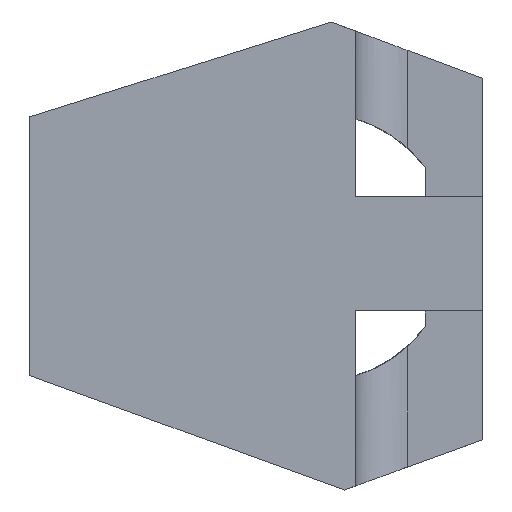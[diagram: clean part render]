
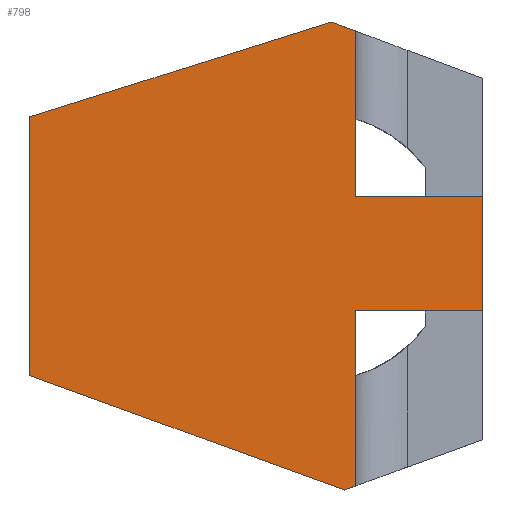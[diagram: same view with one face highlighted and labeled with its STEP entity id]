
A CAD part, left-side view. The second image highlights one B-rep face of the part: STEP entity #798.
In plain terms, the highlighted planar face has unit normal (-1, 0, 0).
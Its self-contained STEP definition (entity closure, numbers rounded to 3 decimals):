
#42=PLANE('',#856);
#71=FACE_OUTER_BOUND('',#108,.T.);
#108=EDGE_LOOP('',(#601,#602,#603,#604,#605,#606,#607,#608,#609,#610));
#145=LINE('',#1131,#241);
#150=LINE('',#1157,#246);
#155=LINE('',#1167,#251);
#180=LINE('',#1228,#276);
#181=LINE('',#1230,#277);
#182=LINE('',#1231,#278);
#183=LINE('',#1233,#279);
#184=LINE('',#1235,#280);
#185=LINE('',#1237,#281);
#186=LINE('',#1238,#282);
#241=VECTOR('',#907,10.);
#246=VECTOR('',#918,10.);
#251=VECTOR('',#925,10.);
#276=VECTOR('',#972,10.);
#277=VECTOR('',#973,10.);
#278=VECTOR('',#974,10.);
#279=VECTOR('',#975,10.);
#280=VECTOR('',#976,10.);
#281=VECTOR('',#977,10.);
#282=VECTOR('',#978,10.);
#343=VERTEX_POINT('',#1128);
#344=VERTEX_POINT('',#1130);
#349=VERTEX_POINT('',#1154);
#350=VERTEX_POINT('',#1156);
#354=VERTEX_POINT('',#1166);
#379=VERTEX_POINT('',#1227);
#380=VERTEX_POINT('',#1229);
#381=VERTEX_POINT('',#1232);
#382=VERTEX_POINT('',#1234);
#383=VERTEX_POINT('',#1236);
#426=EDGE_CURVE('',#344,#343,#145,.T.);
#433=EDGE_CURVE('',#350,#349,#150,.T.);
#438=EDGE_CURVE('',#354,#344,#155,.T.);
#469=EDGE_CURVE('',#343,#379,#180,.T.);
#470=EDGE_CURVE('',#379,#380,#181,.T.);
#471=EDGE_CURVE('',#380,#350,#182,.T.);
#472=EDGE_CURVE('',#381,#349,#183,.T.);
#473=EDGE_CURVE('',#381,#382,#184,.T.);
#474=EDGE_CURVE('',#382,#383,#185,.T.);
#475=EDGE_CURVE('',#354,#383,#186,.F.);
#601=ORIENTED_EDGE('',*,*,#426,.T.);
#602=ORIENTED_EDGE('',*,*,#469,.T.);
#603=ORIENTED_EDGE('',*,*,#470,.T.);
#604=ORIENTED_EDGE('',*,*,#471,.T.);
#605=ORIENTED_EDGE('',*,*,#433,.T.);
#606=ORIENTED_EDGE('',*,*,#472,.F.);
#607=ORIENTED_EDGE('',*,*,#473,.T.);
#608=ORIENTED_EDGE('',*,*,#474,.T.);
#609=ORIENTED_EDGE('',*,*,#475,.F.);
#610=ORIENTED_EDGE('',*,*,#438,.T.);
#798=ADVANCED_FACE('',(#71),#42,.T.);
#856=AXIS2_PLACEMENT_3D('',#1226,#970,#971);
#907=DIRECTION('',(0.,0.,1.));
#918=DIRECTION('',(0.,0.,1.));
#925=DIRECTION('',(0.,-0.94,0.342));
#970=DIRECTION('center_axis',(-1.,0.,0.));
#971=DIRECTION('ref_axis',(0.,0.,1.));
#972=DIRECTION('',(0.,-1.,0.));
#973=DIRECTION('',(0.,0.,1.));
#974=DIRECTION('',(0.,1.,0.));
#975=DIRECTION('',(0.,-0.937,-0.35));
#976=DIRECTION('',(0.,0.954,-0.3));
#977=DIRECTION('',(0.,0.,-1.));
#978=DIRECTION('',(0.,-0.94,-0.342));
#1128=CARTESIAN_POINT('',(393.918,180.419,-492.413));
#1130=CARTESIAN_POINT('',(393.918,180.419,-509.289));
#1131=CARTESIAN_POINT('',(393.918,180.419,-498.622));
#1154=CARTESIAN_POINT('',(393.918,180.419,-465.422));
#1156=CARTESIAN_POINT('',(393.918,180.419,-481.413));
#1157=CARTESIAN_POINT('',(393.918,180.419,-485.126));
#1166=CARTESIAN_POINT('',(393.918,181.465,-509.67));
#1167=CARTESIAN_POINT('',(393.918,179.625,-509.));
#1226=CARTESIAN_POINT('Origin',(393.918,168.169,-504.831));
#1227=CARTESIAN_POINT('',(393.918,168.169,-492.413));
#1228=CARTESIAN_POINT('',(393.918,168.169,-492.413));
#1229=CARTESIAN_POINT('',(393.918,168.169,-481.413));
#1230=CARTESIAN_POINT('',(393.918,168.169,-492.107));
#1231=CARTESIAN_POINT('',(393.918,174.294,-481.413));
#1232=CARTESIAN_POINT('',(393.918,182.713,-464.566));
#1233=CARTESIAN_POINT('',(393.918,169.964,-469.324));
#1234=CARTESIAN_POINT('',(393.918,211.775,-473.713));
#1235=CARTESIAN_POINT('',(393.918,196.393,-468.872));
#1236=CARTESIAN_POINT('',(393.918,211.775,-498.638));
#1237=CARTESIAN_POINT('',(393.918,211.775,-501.734));
#1238=CARTESIAN_POINT('',(393.918,191.521,-506.01));
